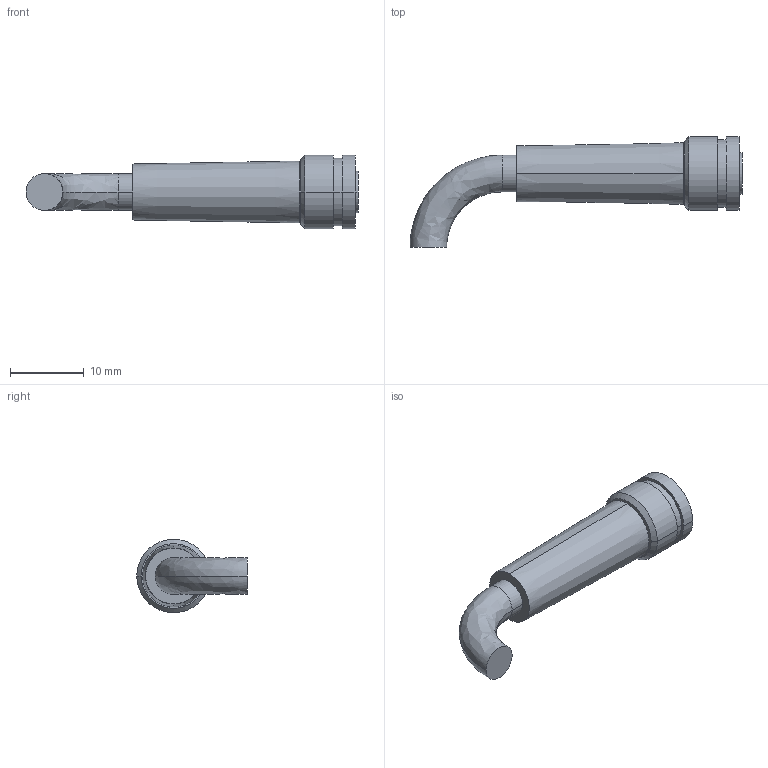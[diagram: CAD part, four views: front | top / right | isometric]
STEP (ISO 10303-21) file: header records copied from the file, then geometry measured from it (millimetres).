
FILE_DESCRIPTION (( 'STEP AP203' ), '1' );
FILE_NAME ('Asyril_FEMALE STRAIGHT 3P M8 MOLDED CABLE_XXX.XXX.XXX_(option).step', '2017-07-05T07:24:09', ( 'Standard' ), ( '' ), 'SwSTEP 2.0', 'SolidWorks 2016', '' );
FILE_SCHEMA (( 'CONFIG_CONTROL_DESIGN' ));
Length unit declared in the file: millimetre
Products named in the file (1): Asyril_FEMALE STRAIGHT 3P M8 MOLDED CABLE_XXX.XXX.XXX_(option)
Bounding box: 45.1 x 15 x 10 mm (x, y, z)
Volume: 2000.2 mm3; surface area: 1492.6 mm2
Topology: 1 solids, 1 shells, 30 faces, 62 edges, 40 vertices
Faces by surface type: cylinder 14, plane 8, bspline 4, cone 4
Entity records: 1075 total; most frequent: CARTESIAN_POINT 335, DIRECTION 156, ORIENTED_EDGE 124, AXIS2_PLACEMENT_3D 69, EDGE_CURVE 62, CIRCLE 42, VERTEX_POINT 40, EDGE_LOOP 36
